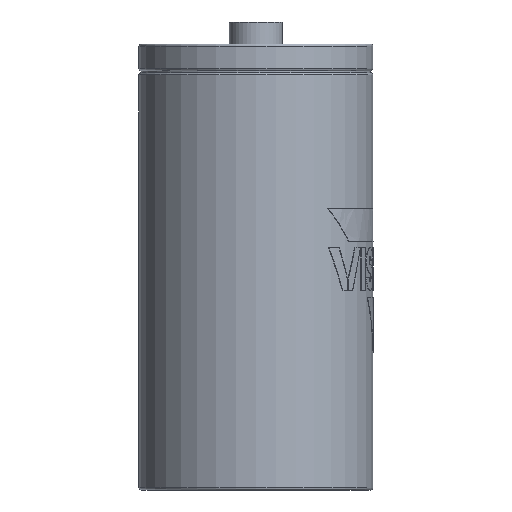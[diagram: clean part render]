
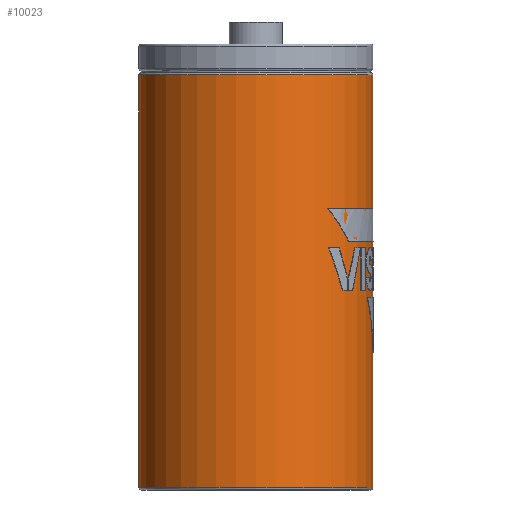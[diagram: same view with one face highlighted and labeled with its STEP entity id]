
A CAD part, left-side view. The second image highlights one B-rep face of the part: STEP entity #10023.
In plain terms, the highlighted cylindrical face has radius 38.2 mm (diameter 76.4 mm), a full revolution.
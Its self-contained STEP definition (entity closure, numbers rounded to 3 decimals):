
#9956 = TOROIDAL_SURFACE('',#9957,37.5,0.7);
#9957 = AXIS2_PLACEMENT_3D('',#9958,#9959,#9960);
#9958 = CARTESIAN_POINT('',(0.,0.,-144.4));
#9959 = DIRECTION('',(0.,0.,1.));
#9960 = DIRECTION('',(1.,0.,0.));
#9973 = VERTEX_POINT('',#9974);
#9974 = CARTESIAN_POINT('',(38.2,0.,-144.4));
#9996 = EDGE_CURVE('',#9973,#9973,#9997,.T.);
#9997 = SURFACE_CURVE('',#9998,(#10003,#10010),.PCURVE_S1.);
#9998 = CIRCLE('',#9999,38.2);
#9999 = AXIS2_PLACEMENT_3D('',#10000,#10001,#10002);
#10000 = CARTESIAN_POINT('',(0.,0.,-144.4));
#10001 = DIRECTION('',(-0.,0.,1.));
#10002 = DIRECTION('',(1.,0.,0.));
#10003 = PCURVE('',#9956,#10004);
#10004 = DEFINITIONAL_REPRESENTATION('',(#10005),#10009);
#10005 = LINE('',#10006,#10007);
#10006 = CARTESIAN_POINT('',(0.,6.283));
#10007 = VECTOR('',#10008,1.);
#10008 = DIRECTION('',(1.,0.));
#10009 = ( GEOMETRIC_REPRESENTATION_CONTEXT(2) 
PARAMETRIC_REPRESENTATION_CONTEXT() REPRESENTATION_CONTEXT('2D SPACE',''
  ) );
#10010 = PCURVE('',#10011,#10016);
#10011 = CYLINDRICAL_SURFACE('',#10012,38.2);
#10012 = AXIS2_PLACEMENT_3D('',#10013,#10014,#10015);
#10013 = CARTESIAN_POINT('',(0.,0.,-144.4));
#10014 = DIRECTION('',(0.,0.,1.));
#10015 = DIRECTION('',(1.,0.,0.));
#10016 = DEFINITIONAL_REPRESENTATION('',(#10017),#10021);
#10017 = LINE('',#10018,#10019);
#10018 = CARTESIAN_POINT('',(0.,0.));
#10019 = VECTOR('',#10020,1.);
#10020 = DIRECTION('',(1.,0.));
#10021 = ( GEOMETRIC_REPRESENTATION_CONTEXT(2) 
PARAMETRIC_REPRESENTATION_CONTEXT() REPRESENTATION_CONTEXT('2D SPACE',''
  ) );
#10023 = ADVANCED_FACE('',(#10024),#10011,.T.);
#10024 = FACE_BOUND('',#10025,.T.);
#10025 = EDGE_LOOP('',(#10026,#10027,#10050,#10077));
#10026 = ORIENTED_EDGE('',*,*,#9996,.T.);
#10027 = ORIENTED_EDGE('',*,*,#10028,.T.);
#10028 = EDGE_CURVE('',#9973,#10029,#10031,.T.);
#10029 = VERTEX_POINT('',#10030);
#10030 = CARTESIAN_POINT('',(38.2,0.,-9.4));
#10031 = SEAM_CURVE('',#10032,(#10036,#10043),.PCURVE_S1.);
#10032 = LINE('',#10033,#10034);
#10033 = CARTESIAN_POINT('',(38.2,0.,-144.4));
#10034 = VECTOR('',#10035,1.);
#10035 = DIRECTION('',(0.,0.,1.));
#10036 = PCURVE('',#10011,#10037);
#10037 = DEFINITIONAL_REPRESENTATION('',(#10038),#10042);
#10038 = LINE('',#10039,#10040);
#10039 = CARTESIAN_POINT('',(0.,0.));
#10040 = VECTOR('',#10041,1.);
#10041 = DIRECTION('',(0.,1.));
#10042 = ( GEOMETRIC_REPRESENTATION_CONTEXT(2) 
PARAMETRIC_REPRESENTATION_CONTEXT() REPRESENTATION_CONTEXT('2D SPACE',''
  ) );
#10043 = PCURVE('',#10011,#10044);
#10044 = DEFINITIONAL_REPRESENTATION('',(#10045),#10049);
#10045 = LINE('',#10046,#10047);
#10046 = CARTESIAN_POINT('',(6.283,0.));
#10047 = VECTOR('',#10048,1.);
#10048 = DIRECTION('',(0.,1.));
#10049 = ( GEOMETRIC_REPRESENTATION_CONTEXT(2) 
PARAMETRIC_REPRESENTATION_CONTEXT() REPRESENTATION_CONTEXT('2D SPACE',''
  ) );
#10050 = ORIENTED_EDGE('',*,*,#10051,.F.);
#10051 = EDGE_CURVE('',#10029,#10029,#10052,.T.);
#10052 = SURFACE_CURVE('',#10053,(#10058,#10065),.PCURVE_S1.);
#10053 = CIRCLE('',#10054,38.2);
#10054 = AXIS2_PLACEMENT_3D('',#10055,#10056,#10057);
#10055 = CARTESIAN_POINT('',(0.,0.,-9.4));
#10056 = DIRECTION('',(-0.,0.,1.));
#10057 = DIRECTION('',(1.,0.,0.));
#10058 = PCURVE('',#10011,#10059);
#10059 = DEFINITIONAL_REPRESENTATION('',(#10060),#10064);
#10060 = LINE('',#10061,#10062);
#10061 = CARTESIAN_POINT('',(0.,135.));
#10062 = VECTOR('',#10063,1.);
#10063 = DIRECTION('',(1.,0.));
#10064 = ( GEOMETRIC_REPRESENTATION_CONTEXT(2) 
PARAMETRIC_REPRESENTATION_CONTEXT() REPRESENTATION_CONTEXT('2D SPACE',''
  ) );
#10065 = PCURVE('',#10066,#10071);
#10066 = TOROIDAL_SURFACE('',#10067,37.5,0.7);
#10067 = AXIS2_PLACEMENT_3D('',#10068,#10069,#10070);
#10068 = CARTESIAN_POINT('',(0.,0.,-9.4));
#10069 = DIRECTION('',(0.,0.,1.));
#10070 = DIRECTION('',(1.,0.,0.));
#10071 = DEFINITIONAL_REPRESENTATION('',(#10072),#10076);
#10072 = LINE('',#10073,#10074);
#10073 = CARTESIAN_POINT('',(0.,0.));
#10074 = VECTOR('',#10075,1.);
#10075 = DIRECTION('',(1.,0.));
#10076 = ( GEOMETRIC_REPRESENTATION_CONTEXT(2) 
PARAMETRIC_REPRESENTATION_CONTEXT() REPRESENTATION_CONTEXT('2D SPACE',''
  ) );
#10077 = ORIENTED_EDGE('',*,*,#10028,.F.);
